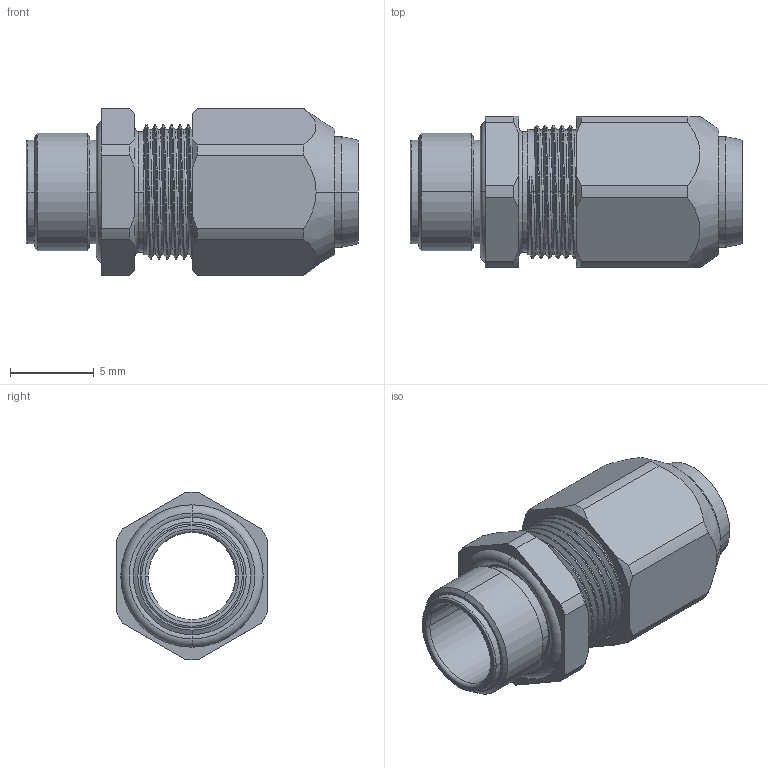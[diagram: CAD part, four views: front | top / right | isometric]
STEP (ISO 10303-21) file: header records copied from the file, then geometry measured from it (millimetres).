
FILE_DESCRIPTION(('Creo Elements/Direct Modeling STEP Export'),'2;1');
FILE_NAME('OA-WS07M-35／50.stp','2012-09-07T14:33:30',(''),(''),'Creo Elements/Direct Modeling STEP processor for AP214 (Solid Model)','Creo Elements/Direct Modeling 18.0B 02-Dec-2011 (C) Parametric Technology GmbH','');
FILE_SCHEMA(('AUTOMOTIVE_DESIGN { 1 0 10303 214 1 1 1 1 }'));
Length unit declared in the file: millimetre
Products named in the file (2): OA-WS07M-35／50
Assembly tree (1 placements, depth 2):
  OA-WS07M-35／50
    OA-WS07M-35／50
Bounding box: 19.8 x 9 x 10 mm (x, y, z)
Volume: 645.4 mm3; surface area: 1148.4 mm2
Topology: 1 solids, 1 shells, 155 faces, 386 edges, 249 vertices
Faces by surface type: cylinder 73, plane 30, torus 28, cone 20, bspline 2, revolution 2
Entity records: 6666 total; most frequent: CARTESIAN_POINT 3486, ORIENTED_EDGE 772, DIRECTION 533, EDGE_CURVE 386, VERTEX_POINT 249, AXIS2_PLACEMENT_3D 222, EDGE_LOOP 173, FACE_OUTER_BOUND 155
